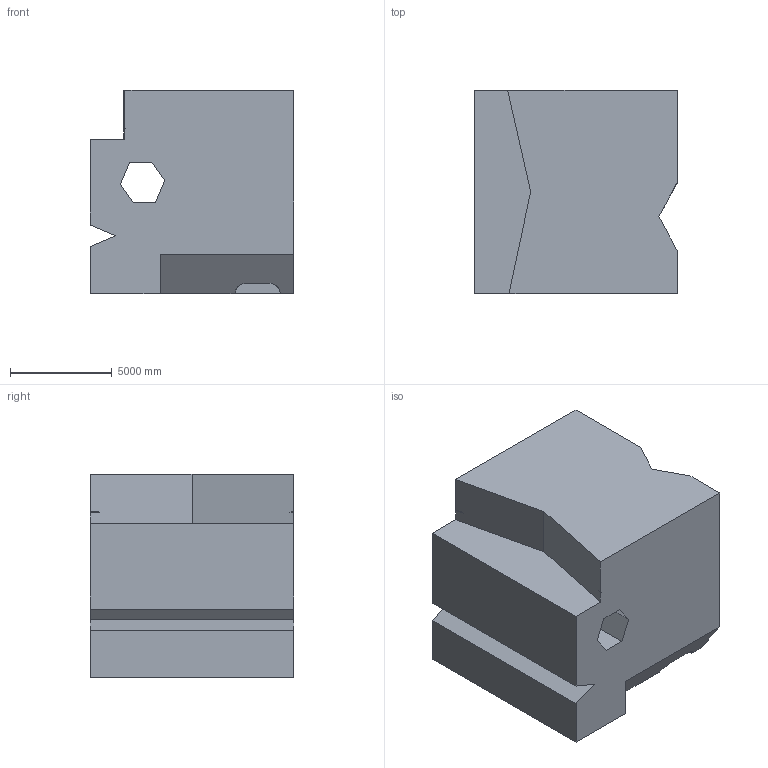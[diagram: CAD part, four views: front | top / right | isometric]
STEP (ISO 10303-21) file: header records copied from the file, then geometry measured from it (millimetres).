
FILE_DESCRIPTION (( 'STEP AP203' ), '1' );
FILE_NAME ('851.STEP', '2022-08-04T16:00:35', ( 'user' ), ( '' ), 'SwSTEP 2.0', 'SolidWorks 2021', '' );
FILE_SCHEMA (( 'CONFIG_CONTROL_DESIGN' ));
Length unit declared in the file: centimetre
Products named in the file (1): 851
Bounding box: 10000 x 10000 x 10000 mm (x, y, z)
Volume: 864692141952 mm3; surface area: 698693888.8 mm2
Topology: 1 solids, 1 shells, 45 faces, 123 edges, 82 vertices
Faces by surface type: plane 37, cylinder 8
Entity records: 1776 total; most frequent: CARTESIAN_POINT 555, ORIENTED_EDGE 246, DIRECTION 221, EDGE_CURVE 123, VECTOR 101, LINE 101, VERTEX_POINT 82, AXIS2_PLACEMENT_3D 60
